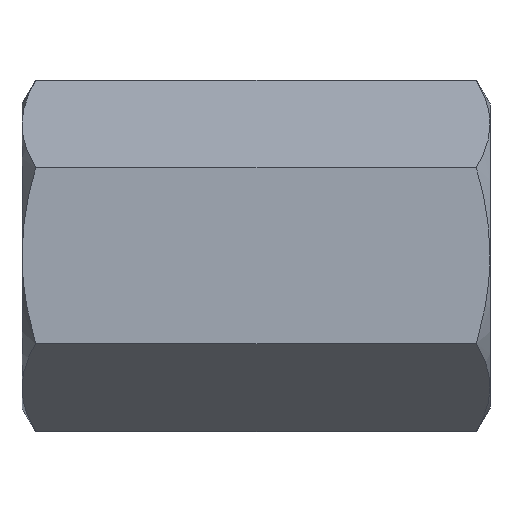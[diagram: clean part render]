
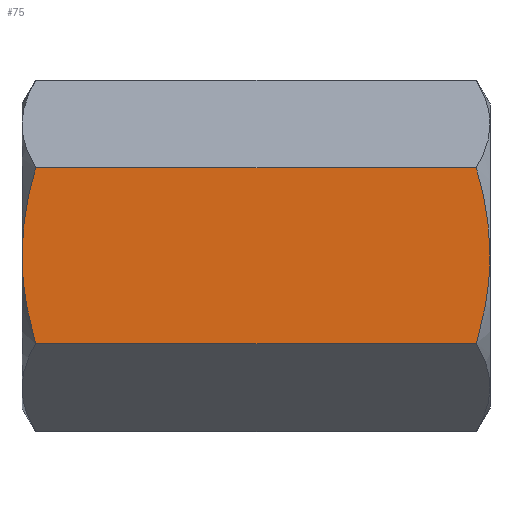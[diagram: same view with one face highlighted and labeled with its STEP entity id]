
A CAD part, top view. The second image highlights one B-rep face of the part: STEP entity #75.
In plain terms, the highlighted planar face has unit normal (0, 0, 1).
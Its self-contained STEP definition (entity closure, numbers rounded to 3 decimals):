
#75 = ADVANCED_FACE( '', ( #99 ), #100, .F. );
#99 = FACE_OUTER_BOUND( '', #150, .T. );
#100 = PLANE( '', #151 );
#150 = EDGE_LOOP( '', ( #201, #202, #203, #204, #205, #206 ) );
#151 = AXIS2_PLACEMENT_3D( '', #207, #208, #209 );
#201 = ORIENTED_EDGE( '', *, *, #362, .F. );
#202 = ORIENTED_EDGE( '', *, *, #363, .F. );
#203 = ORIENTED_EDGE( '', *, *, #364, .F. );
#204 = ORIENTED_EDGE( '', *, *, #365, .T. );
#205 = ORIENTED_EDGE( '', *, *, #366, .F. );
#206 = ORIENTED_EDGE( '', *, *, #367, .F. );
#207 = CARTESIAN_POINT( '', ( 20., 3.753, 6.5 ) );
#208 = DIRECTION( '', ( 0., 0., -1. ) );
#209 = DIRECTION( '', ( -1., 0., 0. ) );
#362 = EDGE_CURVE( '', #408, #409, #410, .T. );
#363 = EDGE_CURVE( '', #411, #408, #412, .F. );
#364 = EDGE_CURVE( '', #413, #411, #414, .F. );
#365 = EDGE_CURVE( '', #413, #415, #416, .T. );
#366 = EDGE_CURVE( '', #417, #415, #418, .T. );
#367 = EDGE_CURVE( '', #409, #417, #419, .T. );
#408 = VERTEX_POINT( '', #482 );
#409 = VERTEX_POINT( '', #483 );
#410 = LINE( '', #484, #485 );
#411 = VERTEX_POINT( '', #486 );
#412 = B_SPLINE_CURVE_WITH_KNOTS( '', 3, ( #487, #488, #489, #490, #491, #492 ), .UNSPECIFIED., .F., .F., ( 4, 2, 4 ), ( 0.007, 0.009, 0.011 ), .UNSPECIFIED. );
#413 = VERTEX_POINT( '', #493 );
#414 = B_SPLINE_CURVE_WITH_KNOTS( '', 3, ( #494, #495, #496, #497, #498, #499 ), .UNSPECIFIED., .F., .F., ( 4, 2, 4 ), ( 0.011, 0.013, 0.014 ), .UNSPECIFIED. );
#415 = VERTEX_POINT( '', #500 );
#416 = LINE( '', #501, #502 );
#417 = VERTEX_POINT( '', #503 );
#418 = B_SPLINE_CURVE_WITH_KNOTS( '', 3, ( #504, #505, #506, #507, #508, #509 ), .UNSPECIFIED., .F., .F., ( 4, 2, 4 ), ( 0.011, 0.013, 0.014 ), .UNSPECIFIED. );
#419 = B_SPLINE_CURVE_WITH_KNOTS( '', 3, ( #510, #511, #512, #513, #514, #515 ), .UNSPECIFIED., .F., .F., ( 4, 2, 4 ), ( 0.007, 0.009, 0.011 ), .UNSPECIFIED. );
#482 = CARTESIAN_POINT( '', ( 19.419, -3.753, 6.5 ) );
#483 = CARTESIAN_POINT( '', ( 0.581, -3.753, 6.5 ) );
#484 = CARTESIAN_POINT( '', ( 20., -3.753, 6.5 ) );
#485 = VECTOR( '', #698, 1000. );
#486 = CARTESIAN_POINT( '', ( 20., 0., 6.5 ) );
#487 = CARTESIAN_POINT( '', ( 19.419, -3.753, 6.5 ) );
#488 = CARTESIAN_POINT( '', ( 19.596, -3.142, 6.5 ) );
#489 = CARTESIAN_POINT( '', ( 19.743, -2.517, 6.5 ) );
#490 = CARTESIAN_POINT( '', ( 19.945, -1.265, 6.5 ) );
#491 = CARTESIAN_POINT( '', ( 20., -0.635, 6.5 ) );
#492 = CARTESIAN_POINT( '', ( 20., 0., 6.5 ) );
#493 = CARTESIAN_POINT( '', ( 19.419, 3.753, 6.5 ) );
#494 = CARTESIAN_POINT( '', ( 20., 0., 6.5 ) );
#495 = CARTESIAN_POINT( '', ( 20., 0.635, 6.5 ) );
#496 = CARTESIAN_POINT( '', ( 19.944, 1.278, 6.5 ) );
#497 = CARTESIAN_POINT( '', ( 19.74, 2.531, 6.5 ) );
#498 = CARTESIAN_POINT( '', ( 19.595, 3.146, 6.5 ) );
#499 = CARTESIAN_POINT( '', ( 19.419, 3.753, 6.5 ) );
#500 = CARTESIAN_POINT( '', ( 0.581, 3.753, 6.5 ) );
#501 = CARTESIAN_POINT( '', ( 20., 3.753, 6.5 ) );
#502 = VECTOR( '', #699, 1000. );
#503 = CARTESIAN_POINT( '', ( 0., 0., 6.5 ) );
#504 = CARTESIAN_POINT( '', ( 0., 0., 6.5 ) );
#505 = CARTESIAN_POINT( '', ( 0., 0.635, 6.5 ) );
#506 = CARTESIAN_POINT( '', ( 0.056, 1.278, 6.5 ) );
#507 = CARTESIAN_POINT( '', ( 0.26, 2.531, 6.5 ) );
#508 = CARTESIAN_POINT( '', ( 0.405, 3.146, 6.5 ) );
#509 = CARTESIAN_POINT( '', ( 0.581, 3.753, 6.5 ) );
#510 = CARTESIAN_POINT( '', ( 0.581, -3.753, 6.5 ) );
#511 = CARTESIAN_POINT( '', ( 0.404, -3.142, 6.5 ) );
#512 = CARTESIAN_POINT( '', ( 0.257, -2.517, 6.5 ) );
#513 = CARTESIAN_POINT( '', ( 0.055, -1.265, 6.5 ) );
#514 = CARTESIAN_POINT( '', ( 0., -0.635, 6.5 ) );
#515 = CARTESIAN_POINT( '', ( 0., 0., 6.5 ) );
#698 = DIRECTION( '', ( -1., 0., 0. ) );
#699 = DIRECTION( '', ( -1., 0., 0. ) );
